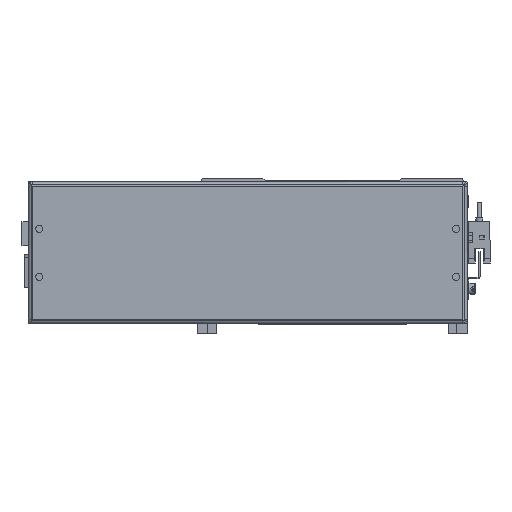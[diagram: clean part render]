
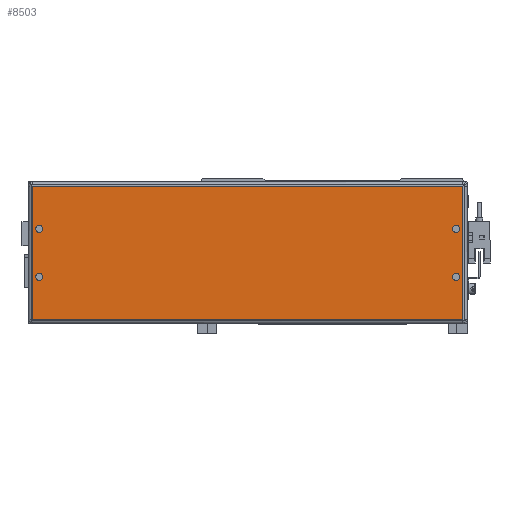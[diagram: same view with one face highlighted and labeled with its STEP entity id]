
A CAD part, front view. The second image highlights one B-rep face of the part: STEP entity #8503.
In plain terms, the highlighted planar face has unit normal (0, -1, 0) as drawn and (0, 0, 1) by its records, which use the part's own axes.
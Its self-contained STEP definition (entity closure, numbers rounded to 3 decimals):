
#291 = EDGE_CURVE ( 'NONE', #21857, #1657, #34114, .T. ) ;
#672 = DIRECTION ( 'NONE',  ( 1., 0., 0. ) ) ;
#868 = CARTESIAN_POINT ( 'NONE',  ( -92.753, -2.269, 63. ) ) ;
#898 = CARTESIAN_POINT ( 'NONE',  ( 170.497, 27.731, 63. ) ) ;
#1657 = VERTEX_POINT ( 'NONE', #22931 ) ;
#1935 = CIRCLE ( 'NONE', #3985, 2.25 ) ;
#1990 = LINE ( 'NONE', #22460, #29823 ) ;
#2292 = CIRCLE ( 'NONE', #22441, 2.25 ) ;
#3067 = PLANE ( 'NONE',  #5896 ) ;
#3397 = DIRECTION ( 'NONE',  ( 0., 0., 1. ) ) ;
#3985 = AXIS2_PLACEMENT_3D ( 'NONE', #19970, #37135, #23873 ) ;
#4068 = ORIENTED_EDGE ( 'NONE', *, *, #56719, .T. ) ;
#5489 = AXIS2_PLACEMENT_3D ( 'NONE', #10388, #45574, #27745 ) ;
#5896 = AXIS2_PLACEMENT_3D ( 'NONE', #29536, #11992, #46959 ) ;
#6741 = ORIENTED_EDGE ( 'NONE', *, *, #52059, .F. ) ;
#7842 = AXIS2_PLACEMENT_3D ( 'NONE', #8396, #13252, #40125 ) ;
#8273 = CARTESIAN_POINT ( 'NONE',  ( 165.997, 27.731, 63. ) ) ;
#8396 = CARTESIAN_POINT ( 'NONE',  ( -92.753, 27.731, 63. ) ) ;
#8503 = ADVANCED_FACE ( 'NONE', ( #24427, #30034, #36286, #11899, #47328 ), #3067, .T. ) ;
#8679 = VERTEX_POINT ( 'NONE', #21701 ) ;
#10388 = CARTESIAN_POINT ( 'NONE',  ( -92.753, 27.731, 63. ) ) ;
#11490 = EDGE_LOOP ( 'NONE', ( #43308, #17980 ) ) ;
#11761 = CARTESIAN_POINT ( 'NONE',  ( 172.54, 54.494, 63. ) ) ;
#11899 = FACE_BOUND ( 'NONE', #18652, .T. ) ;
#11992 = DIRECTION ( 'NONE',  ( 0., 0., 1. ) ) ;
#12119 = EDGE_CURVE ( 'NONE', #16787, #22783, #2292, .T. ) ;
#12169 = CARTESIAN_POINT ( 'NONE',  ( -90.503, 27.731, 63. ) ) ;
#12205 = CIRCLE ( 'NONE', #19469, 2.25 ) ;
#12270 = EDGE_LOOP ( 'NONE', ( #12604, #49251 ) ) ;
#12604 = ORIENTED_EDGE ( 'NONE', *, *, #291, .F. ) ;
#13252 = DIRECTION ( 'NONE',  ( 0., 0., 1. ) ) ;
#13621 = CIRCLE ( 'NONE', #34800, 2.25 ) ;
#14264 = ORIENTED_EDGE ( 'NONE', *, *, #42855, .F. ) ;
#14922 = ORIENTED_EDGE ( 'NONE', *, *, #25350, .T. ) ;
#15442 = EDGE_CURVE ( 'NONE', #22783, #16787, #23188, .T. ) ;
#16010 = DIRECTION ( 'NONE',  ( 1., 0., 0. ) ) ;
#16787 = VERTEX_POINT ( 'NONE', #22315 ) ;
#17243 = VECTOR ( 'NONE', #44499, 1000. ) ;
#17802 = CARTESIAN_POINT ( 'NONE',  ( -95.003, -2.269, 63. ) ) ;
#17980 = ORIENTED_EDGE ( 'NONE', *, *, #43597, .F. ) ;
#18278 = ORIENTED_EDGE ( 'NONE', *, *, #12119, .F. ) ;
#18652 = EDGE_LOOP ( 'NONE', ( #18278, #39043 ) ) ;
#19271 = CARTESIAN_POINT ( 'NONE',  ( -97.016, 54.494, 63. ) ) ;
#19469 = AXIS2_PLACEMENT_3D ( 'NONE', #42558, #33845, #33084 ) ;
#19970 = CARTESIAN_POINT ( 'NONE',  ( 168.247, -2.269, 63. ) ) ;
#21125 = EDGE_LOOP ( 'NONE', ( #23889, #22614, #4068, #14922 ) ) ;
#21447 = LINE ( 'NONE', #48919, #17243 ) ;
#21701 = CARTESIAN_POINT ( 'NONE',  ( 172.51, -29.032, 63. ) ) ;
#21857 = VERTEX_POINT ( 'NONE', #12169 ) ;
#22243 = VERTEX_POINT ( 'NONE', #19271 ) ;
#22315 = CARTESIAN_POINT ( 'NONE',  ( -90.503, -2.269, 63. ) ) ;
#22441 = AXIS2_PLACEMENT_3D ( 'NONE', #52132, #3397, #16010 ) ;
#22460 = CARTESIAN_POINT ( 'NONE',  ( -97.046, -29.032, 63. ) ) ;
#22500 = DIRECTION ( 'NONE',  ( 1., 0., 0. ) ) ;
#22614 = ORIENTED_EDGE ( 'NONE', *, *, #24886, .T. ) ;
#22783 = VERTEX_POINT ( 'NONE', #17802 ) ;
#22931 = CARTESIAN_POINT ( 'NONE',  ( -95.003, 27.731, 63. ) ) ;
#23188 = CIRCLE ( 'NONE', #47936, 2.25 ) ;
#23393 = DIRECTION ( 'NONE',  ( 1., 0., 0. ) ) ;
#23873 = DIRECTION ( 'NONE',  ( 1., 0., 0. ) ) ;
#23889 = ORIENTED_EDGE ( 'NONE', *, *, #29931, .T. ) ;
#24286 = EDGE_LOOP ( 'NONE', ( #14264, #6741 ) ) ;
#24427 = FACE_BOUND ( 'NONE', #24286, .T. ) ;
#24886 = EDGE_CURVE ( 'NONE', #8679, #38934, #21447, .T. ) ;
#25350 = EDGE_CURVE ( 'NONE', #22243, #50394, #29074, .T. ) ;
#27745 = DIRECTION ( 'NONE',  ( 1., 0., 0. ) ) ;
#27930 = VERTEX_POINT ( 'NONE', #898 ) ;
#28516 = VERTEX_POINT ( 'NONE', #29799 ) ;
#29074 = LINE ( 'NONE', #49620, #29801 ) ;
#29152 = EDGE_CURVE ( 'NONE', #27930, #48870, #46537, .T. ) ;
#29536 = CARTESIAN_POINT ( 'NONE',  ( -71.103, 2.271, 63. ) ) ;
#29799 = CARTESIAN_POINT ( 'NONE',  ( 165.997, -2.269, 63. ) ) ;
#29801 = VECTOR ( 'NONE', #57256, 1000. ) ;
#29823 = VECTOR ( 'NONE', #53509, 1000. ) ;
#29931 = EDGE_CURVE ( 'NONE', #50394, #8679, #1990, .T. ) ;
#29935 = CARTESIAN_POINT ( 'NONE',  ( 172.51, 54.494, 63. ) ) ;
#30034 = FACE_BOUND ( 'NONE', #11490, .T. ) ;
#31688 = CARTESIAN_POINT ( 'NONE',  ( 168.247, -2.269, 63. ) ) ;
#33084 = DIRECTION ( 'NONE',  ( 1., 0., 0. ) ) ;
#33845 = DIRECTION ( 'NONE',  ( 0., 0., 1. ) ) ;
#34114 = CIRCLE ( 'NONE', #7842, 2.25 ) ;
#34800 = AXIS2_PLACEMENT_3D ( 'NONE', #31688, #44639, #22500 ) ;
#36275 = DIRECTION ( 'NONE',  ( 0., 0., 1. ) ) ;
#36286 = FACE_BOUND ( 'NONE', #12270, .T. ) ;
#36842 = CARTESIAN_POINT ( 'NONE',  ( 168.247, 27.731, 63. ) ) ;
#37135 = DIRECTION ( 'NONE',  ( 0., 0., 1. ) ) ;
#38934 = VERTEX_POINT ( 'NONE', #29935 ) ;
#39043 = ORIENTED_EDGE ( 'NONE', *, *, #15442, .F. ) ;
#39462 = VERTEX_POINT ( 'NONE', #53484 ) ;
#39722 = CIRCLE ( 'NONE', #5489, 2.25 ) ;
#40125 = DIRECTION ( 'NONE',  ( 1., 0., 0. ) ) ;
#40950 = AXIS2_PLACEMENT_3D ( 'NONE', #36842, #41090, #23393 ) ;
#41090 = DIRECTION ( 'NONE',  ( 0., 0., 1. ) ) ;
#42558 = CARTESIAN_POINT ( 'NONE',  ( 168.247, 27.731, 63. ) ) ;
#42855 = EDGE_CURVE ( 'NONE', #39462, #28516, #13621, .T. ) ;
#43308 = ORIENTED_EDGE ( 'NONE', *, *, #29152, .F. ) ;
#43505 = CARTESIAN_POINT ( 'NONE',  ( -97.016, -29.032, 63. ) ) ;
#43597 = EDGE_CURVE ( 'NONE', #48870, #27930, #12205, .T. ) ;
#44499 = DIRECTION ( 'NONE',  ( 0., 1., 0. ) ) ;
#44639 = DIRECTION ( 'NONE',  ( 0., 0., 1. ) ) ;
#45467 = LINE ( 'NONE', #11761, #51686 ) ;
#45574 = DIRECTION ( 'NONE',  ( 0., 0., 1. ) ) ;
#46537 = CIRCLE ( 'NONE', #40950, 2.25 ) ;
#46959 = DIRECTION ( 'NONE',  ( 1., 0., 0. ) ) ;
#47328 = FACE_OUTER_BOUND ( 'NONE', #21125, .T. ) ;
#47936 = AXIS2_PLACEMENT_3D ( 'NONE', #868, #36275, #672 ) ;
#48870 = VERTEX_POINT ( 'NONE', #8273 ) ;
#48919 = CARTESIAN_POINT ( 'NONE',  ( 172.51, -29.062, 63. ) ) ;
#49103 = EDGE_CURVE ( 'NONE', #1657, #21857, #39722, .T. ) ;
#49251 = ORIENTED_EDGE ( 'NONE', *, *, #49103, .F. ) ;
#49620 = CARTESIAN_POINT ( 'NONE',  ( -97.016, 54.524, 63. ) ) ;
#50394 = VERTEX_POINT ( 'NONE', #43505 ) ;
#51686 = VECTOR ( 'NONE', #52149, 1000. ) ;
#52059 = EDGE_CURVE ( 'NONE', #28516, #39462, #1935, .T. ) ;
#52132 = CARTESIAN_POINT ( 'NONE',  ( -92.753, -2.269, 63. ) ) ;
#52149 = DIRECTION ( 'NONE',  ( -1., 0., 0. ) ) ;
#53484 = CARTESIAN_POINT ( 'NONE',  ( 170.497, -2.269, 63. ) ) ;
#53509 = DIRECTION ( 'NONE',  ( 1., 0., 0. ) ) ;
#56719 = EDGE_CURVE ( 'NONE', #38934, #22243, #45467, .T. ) ;
#57256 = DIRECTION ( 'NONE',  ( 0., -1., 0. ) ) ;
